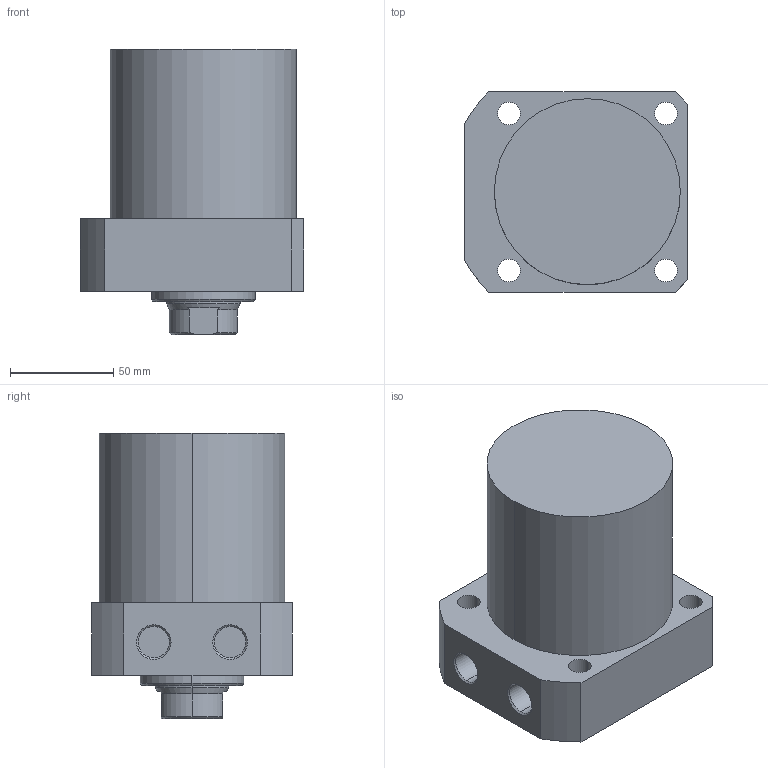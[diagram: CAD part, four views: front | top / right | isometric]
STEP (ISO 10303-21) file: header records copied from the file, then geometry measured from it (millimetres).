
FILE_DESCRIPTION (( 'STEP AP203' ), '1' );
FILE_NAME ('CLLR-090CA-060.STEP', '2019-12-19T02:19:06', ( '' ), ( '' ), 'SwSTEP 2.0', 'SolidWorks 2015', '' );
FILE_SCHEMA (( 'CONFIG_CONTROL_DESIGN' ));
Length unit declared in the file: millimetre
Products named in the file (1): CLLR-090CA-060
Bounding box: 108 x 97 x 138 mm (x, y, z)
Volume: 871924.6 mm3; surface area: 68247.5 mm2
Topology: 1 solids, 1 shells, 63 faces, 149 edges, 94 vertices
Faces by surface type: cylinder 29, plane 19, cone 15
Entity records: 1927 total; most frequent: DIRECTION 340, CARTESIAN_POINT 337, ORIENTED_EDGE 294, EDGE_CURVE 147, AXIS2_PLACEMENT_3D 137, VERTEX_POINT 94, EDGE_LOOP 79, CIRCLE 73
